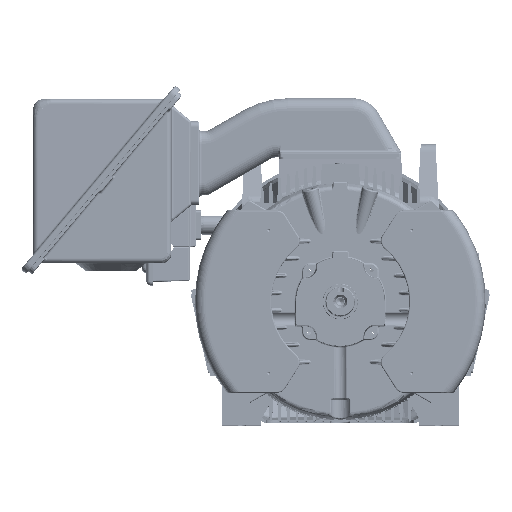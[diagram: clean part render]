
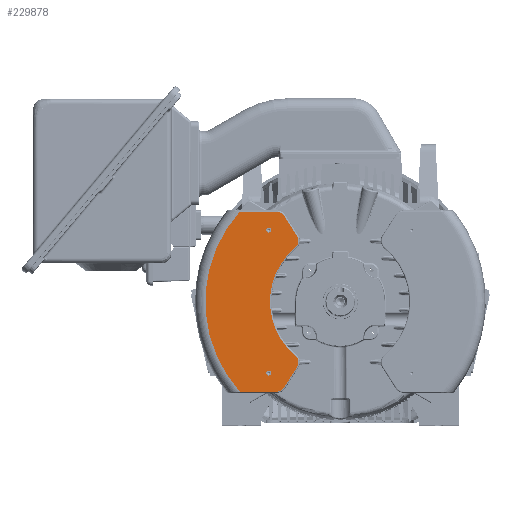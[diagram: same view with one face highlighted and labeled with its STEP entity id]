
A CAD part, top view. The second image highlights one B-rep face of the part: STEP entity #229878.
In plain terms, the highlighted planar face has unit normal (0, 0, 1).
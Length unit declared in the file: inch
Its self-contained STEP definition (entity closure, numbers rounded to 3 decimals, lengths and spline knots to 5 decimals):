
#229117=DIRECTION('',(-0.537,0.843,0.));
#229118=VECTOR('',#229117,2.48175);
#229119=CARTESIAN_POINT('',(-4.37432,6.62436,0.));
#229120=LINE('',#229119,#229118);
#229121=CARTESIAN_POINT('',(-5.10807,6.15691,
0.));
#229122=DIRECTION('',(0.,0.,1.));
#229123=DIRECTION('',(0.639,-0.77,0.));
#229124=AXIS2_PLACEMENT_3D('',#229121,#229122,#229123);
#229126=CARTESIAN_POINT('',(0.,0.,0.));
#229127=DIRECTION('',(0.,0.,-1.));
#229128=DIRECTION('',(-0.639,-0.77,0.));
#229129=AXIS2_PLACEMENT_3D('',#229126,#229127,#229128);
#229131=CARTESIAN_POINT('',(-5.10807,-6.15691,
0.));
#229132=DIRECTION('',(0.,0.,1.));
#229133=DIRECTION('',(0.843,-0.537,0.));
#229134=AXIS2_PLACEMENT_3D('',#229131,#229132,#229133);
#229136=DIRECTION('',(0.537,0.843,0.));
#229137=VECTOR('',#229136,2.48175);
#229138=CARTESIAN_POINT('',(-5.70777,-8.71745,0.));
#229139=LINE('',#229138,#229137);
#229140=CARTESIAN_POINT('',(-6.44152,-8.25,0.));
#229141=DIRECTION('',(0.,0.,1.));
#229142=DIRECTION('',(0.,-1.,0.));
#229143=AXIS2_PLACEMENT_3D('',#229140,#229141,#229142);
#229145=DIRECTION('',(1.,0.,0.));
#229146=VECTOR('',#229145,3.75601);
#229147=CARTESIAN_POINT('',(-10.19753,-9.12,0.));
#229148=LINE('',#229147,#229146);
#229149=CARTESIAN_POINT('',(0.,0.,0.));
#229150=DIRECTION('',(0.,0.,-1.));
#229151=DIRECTION('',(-0.745,-0.667,0.));
#229152=AXIS2_PLACEMENT_3D('',#229149,#229150,#229151);
#229154=DIRECTION('',(-1.,0.,0.));
#229155=VECTOR('',#229154,3.75601);
#229156=CARTESIAN_POINT('',(-6.44152,9.12,0.));
#229157=LINE('',#229156,#229155);
#229158=CARTESIAN_POINT('',(-6.44152,8.25,0.));
#229159=DIRECTION('',(0.,0.,1.));
#229160=DIRECTION('',(0.843,0.537,0.));
#229161=AXIS2_PLACEMENT_3D('',#229158,#229159,#229160);
#229163=CARTESIAN_POINT('',(-7.24784,7.24784,0.));
#229164=DIRECTION('',(0.,0.,-1.));
#229165=DIRECTION('',(-1.,0.,0.));
#229166=AXIS2_PLACEMENT_3D('',#229163,#229164,#229165);
#229168=CARTESIAN_POINT('',(-7.24784,7.24784,0.));
#229169=DIRECTION('',(0.,0.,-1.));
#229170=DIRECTION('',(1.,0.,0.));
#229171=AXIS2_PLACEMENT_3D('',#229168,#229169,#229170);
#229173=CARTESIAN_POINT('',(-7.24784,-7.24784,0.));
#229174=DIRECTION('',(0.,0.,-1.));
#229175=DIRECTION('',(-1.,0.,0.));
#229176=AXIS2_PLACEMENT_3D('',#229173,#229174,#229175);
#229178=CARTESIAN_POINT('',(-7.24784,-7.24784,0.));
#229179=DIRECTION('',(0.,0.,-1.));
#229180=DIRECTION('',(1.,0.,0.));
#229181=AXIS2_PLACEMENT_3D('',#229178,#229179,#229180);
#229203=CARTESIAN_POINT('',(-10.19753,9.12,0.));
#229713=CARTESIAN_POINT('',(-7.49784,7.24784,0.));
#229714=CARTESIAN_POINT('',(-6.99784,7.24784,0.));
#229715=VERTEX_POINT('',#229713);
#229716=VERTEX_POINT('',#229714);
#229721=CARTESIAN_POINT('',(-7.49784,-7.24784,0.));
#229722=CARTESIAN_POINT('',(-6.99784,-7.24784,0.));
#229723=VERTEX_POINT('',#229721);
#229724=VERTEX_POINT('',#229722);
#229725=CARTESIAN_POINT('',(-4.37432,6.62436,0.));
#229726=CARTESIAN_POINT('',(-5.70777,8.71745,0.));
#229727=VERTEX_POINT('',#229725);
#229728=VERTEX_POINT('',#229726);
#229733=CARTESIAN_POINT('',(-4.55257,5.48735,
0.));
#229734=VERTEX_POINT('',#229733);
#229737=CARTESIAN_POINT('',(-4.55257,-5.48735,
0.));
#229738=VERTEX_POINT('',#229737);
#229741=CARTESIAN_POINT('',(-4.37432,-6.62436,
0.));
#229742=VERTEX_POINT('',#229741);
#229745=CARTESIAN_POINT('',(-5.70777,-8.71745,0.));
#229746=VERTEX_POINT('',#229745);
#229763=VERTEX_POINT('',#229203);
#229767=CARTESIAN_POINT('',(-6.44152,9.12,0.));
#229768=VERTEX_POINT('',#229767);
#229771=CARTESIAN_POINT('',(-6.44152,-9.12,
0.));
#229772=VERTEX_POINT('',#229771);
#229775=CARTESIAN_POINT('',(-10.19753,-9.12,0.));
#229776=VERTEX_POINT('',#229775);
#229840=CARTESIAN_POINT('',(0.,0.,0.));
#229841=DIRECTION('',(0.,0.,-1.));
#229842=DIRECTION('',(0.537,0.843,0.));
#229843=AXIS2_PLACEMENT_3D('',#229840,#229841,#229842);
#229844=PLANE('',#229843);
#229846=ORIENTED_EDGE('',*,*,#229845,.F.);
#229848=ORIENTED_EDGE('',*,*,#229847,.F.);
#229850=ORIENTED_EDGE('',*,*,#229849,.F.);
#229852=ORIENTED_EDGE('',*,*,#229851,.F.);
#229853=ORIENTED_EDGE('',*,*,#229830,.F.);
#229855=ORIENTED_EDGE('',*,*,#229854,.F.);
#229857=ORIENTED_EDGE('',*,*,#229856,.F.);
#229859=ORIENTED_EDGE('',*,*,#229858,.T.);
#229861=ORIENTED_EDGE('',*,*,#229860,.F.);
#229863=ORIENTED_EDGE('',*,*,#229862,.F.);
#229864=EDGE_LOOP('',(#229846,#229848,#229850,#229852,#229853,#229855,#229857,
#229859,#229861,#229863));
#229865=FACE_OUTER_BOUND('',#229864,.F.);
#229867=ORIENTED_EDGE('',*,*,#229866,.F.);
#229869=ORIENTED_EDGE('',*,*,#229868,.F.);
#229870=EDGE_LOOP('',(#229867,#229869));
#229871=FACE_BOUND('',#229870,.F.);
#229873=ORIENTED_EDGE('',*,*,#229872,.F.);
#229875=ORIENTED_EDGE('',*,*,#229874,.F.);
#229876=EDGE_LOOP('',(#229873,#229875));
#229877=FACE_BOUND('',#229876,.F.);
#229878=ADVANCED_FACE('',(#229865,#229871,#229877),#229844,.F.);
#229125=CIRCLE('',#229124,0.87);
#229130=CIRCLE('',#229129,7.13);
#229135=CIRCLE('',#229134,0.87);
#229144=CIRCLE('',#229143,0.87);
#229153=CIRCLE('',#229152,13.68079);
#229162=CIRCLE('',#229161,0.87);
#229167=CIRCLE('',#229166,0.25);
#229172=CIRCLE('',#229171,0.25);
#229177=CIRCLE('',#229176,0.25);
#229182=CIRCLE('',#229181,0.25);
#229830=EDGE_CURVE('',#229746,#229742,#229139,.T.);
#229845=EDGE_CURVE('',#229727,#229728,#229120,.T.);
#229847=EDGE_CURVE('',#229734,#229727,#229125,.T.);
#229849=EDGE_CURVE('',#229738,#229734,#229130,.T.);
#229851=EDGE_CURVE('',#229742,#229738,#229135,.T.);
#229854=EDGE_CURVE('',#229772,#229746,#229144,.T.);
#229856=EDGE_CURVE('',#229776,#229772,#229148,.T.);
#229858=EDGE_CURVE('',#229776,#229763,#229153,.T.);
#229860=EDGE_CURVE('',#229768,#229763,#229157,.T.);
#229862=EDGE_CURVE('',#229728,#229768,#229162,.T.);
#229866=EDGE_CURVE('',#229715,#229716,#229167,.T.);
#229868=EDGE_CURVE('',#229716,#229715,#229172,.T.);
#229872=EDGE_CURVE('',#229723,#229724,#229177,.T.);
#229874=EDGE_CURVE('',#229724,#229723,#229182,.T.);
